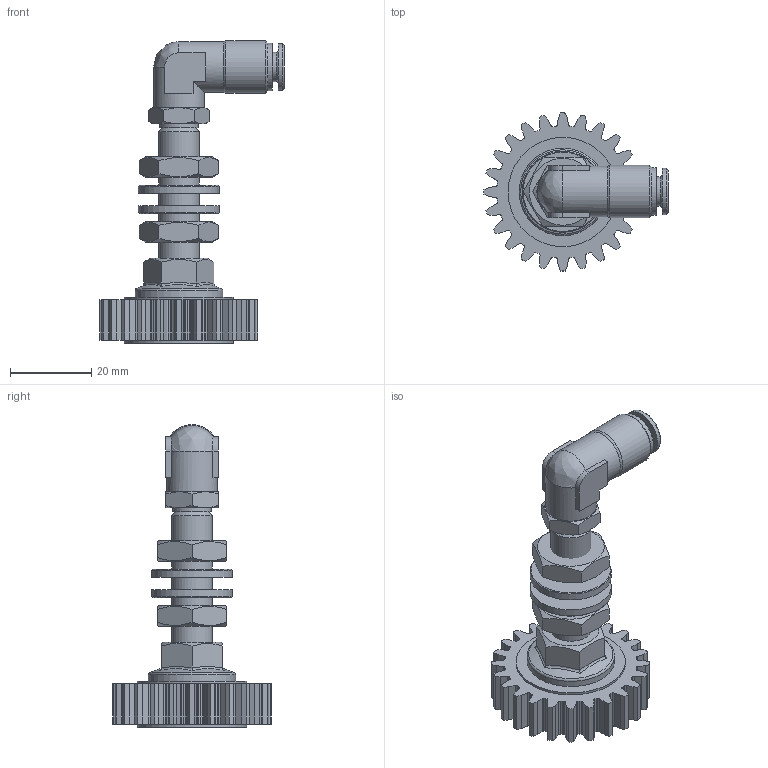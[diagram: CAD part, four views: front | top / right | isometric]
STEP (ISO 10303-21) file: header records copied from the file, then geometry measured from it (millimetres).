
FILE_DESCRIPTION (( 'STEP AP214' ), '1' );
FILE_NAME ('012_13_015_10_24AZ.STEP', '2026-04-01T11:40:44', ( '' ), ( '' ), 'SwSTEP 2.0', 'SolidWorks 2022', '' );
FILE_SCHEMA (( 'AUTOMOTIVE_DESIGN' ));
Length unit declared in the file: millimetre
Products named in the file (13): OR 7.2X1.9; U_Scheibe_10.5; H214667-HDS_1-8_M6X1Z; 12012_06_01_Scheibe-CRS-VA_27.SLDASM; R11155-N2; DR6-C_HDX_25.07.16; 012_06_Senkschraube; Mutter_M10; Achse_M10_1_Schmierzahnrad; H202225_HDS_022_6_M6_28.09.22; Schmierzahnrad_010_24_G; 012_13_015_10_24AZ
Assembly tree (14 placements, depth 4):
  012_13_015_10_24AZ
    Achse_M10_1_Schmierzahnrad
    12012_06_01_Scheibe-CRS-VA_27.SLDASM
    012_06_Senkschraube
    Mutter_M10  x2
    U_Scheibe_10.5  x2
    H202225_HDS_022_6_M6_28.09.22
      R11155-N2
      DR6-C_HDX_25.07.16
      H214667-HDS_1-8_M6X1Z
        H214667-HDS_1-8_M6X1Z
        OR 7.2X1.9
    Schmierzahnrad_010_24_G
Bounding box: 45.5 x 39 x 74.7 mm (x, y, z)
Volume: 21362.8 mm3; surface area: 16089.8 mm2
Topology: 12 solids, 12 shells, 735 faces, 1996 edges, 1321 vertices
Faces by surface type: plane 472, cylinder 114, bspline 95, cone 50, torus 4
Full cylindrical faces by diameter (mm): 2 x1, 4 x1, 4.6 x1, 5 x1, 5.5 x1, 6 x2, 6.2 x1, 6.3 x1, 7.2 x1, 8.5 x2, 9 x2, 9.5 x1, 9.9 x1, 10 x2, 10.1 x2, 10.3 x1, 10.5 x2, 11.5 x1, 11.7 x1, 12.5 x2, 13 x1, 20 x2, 21.6 x1, 27 x2
Entity records: 30567 total; most frequent: CARTESIAN_POINT 11891, ORIENTED_EDGE 3680, DIRECTION 3110, EDGE_CURVE 1840, LINE 1292, VECTOR 1292, VERTEX_POINT 1252, AXIS2_PLACEMENT_3D 909
